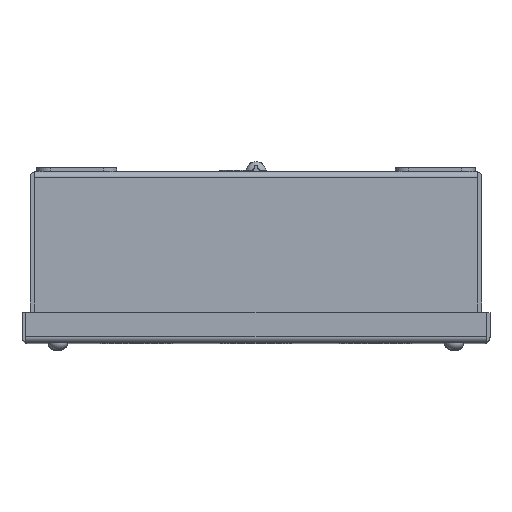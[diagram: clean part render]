
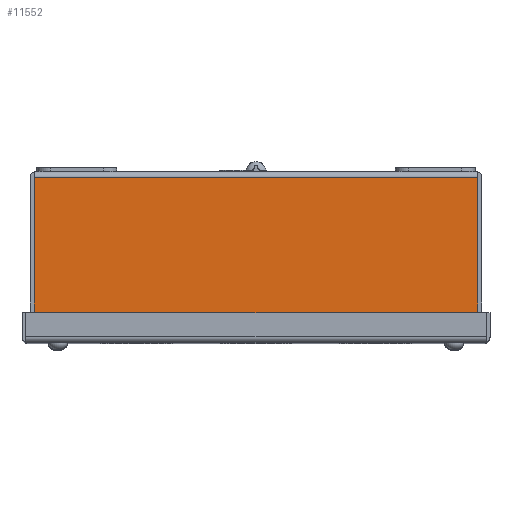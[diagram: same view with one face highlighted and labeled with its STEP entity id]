
A CAD part, top view. The second image highlights one B-rep face of the part: STEP entity #11552.
In plain terms, the highlighted planar face has unit normal (0, 0, 1).
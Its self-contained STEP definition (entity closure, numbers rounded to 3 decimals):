
#1332=ORIENTED_EDGE('',*,*,#4519,.T.);
#1333=ORIENTED_EDGE('',*,*,#4522,.T.);
#1334=ORIENTED_EDGE('',*,*,#4508,.T.);
#1335=ORIENTED_EDGE('',*,*,#4523,.T.);
#4508=EDGE_CURVE('',#6131,#6132,#7261,.T.);
#4519=EDGE_CURVE('',#6143,#6142,#7267,.F.);
#4522=EDGE_CURVE('',#6142,#6131,#7269,.T.);
#4523=EDGE_CURVE('',#6132,#6143,#7270,.T.);
#6131=VERTEX_POINT('',#16839);
#6132=VERTEX_POINT('',#16840);
#6142=VERTEX_POINT('',#16861);
#6143=VERTEX_POINT('',#16863);
#7261=LINE('',#16838,#8451);
#7267=LINE('',#16862,#8457);
#7269=LINE('',#16868,#8459);
#7270=LINE('',#16869,#8460);
#8451=VECTOR('',#13611,1000.);
#8457=VECTOR('',#13629,1000.);
#8459=VECTOR('',#13635,1000.);
#8460=VECTOR('',#13636,1000.);
#9564=EDGE_LOOP('',(#1332,#1333,#1334,#1335));
#10334=FACE_BOUND('',#9564,.T.);
#11085=PLANE('',#12338);
#11552=ADVANCED_FACE('',(#10334),#11085,.F.);
#12338=AXIS2_PLACEMENT_3D('',#16867,#13633,#13634);
#13611=DIRECTION('',(0.,1.,0.));
#13629=DIRECTION('',(0.,1.,0.));
#13633=DIRECTION('',(0.,0.,-1.));
#13634=DIRECTION('',(-1.,0.,0.));
#13635=DIRECTION('',(1.,0.,0.));
#13636=DIRECTION('',(-1.,0.,0.));
#16838=CARTESIAN_POINT('',(106.101,0.,120.65));
#16839=CARTESIAN_POINT('',(106.101,-73.457,120.65));
#16840=CARTESIAN_POINT('',(106.101,-2.743,120.65));
#16861=CARTESIAN_POINT('',(-106.101,-73.457,120.65));
#16862=CARTESIAN_POINT('',(-106.101,0.,120.65));
#16863=CARTESIAN_POINT('',(-106.101,-2.743,120.65));
#16867=CARTESIAN_POINT('',(740.562,0.,120.65));
#16868=CARTESIAN_POINT('',(-106.101,-73.457,120.65));
#16869=CARTESIAN_POINT('',(740.562,-2.743,120.65));
